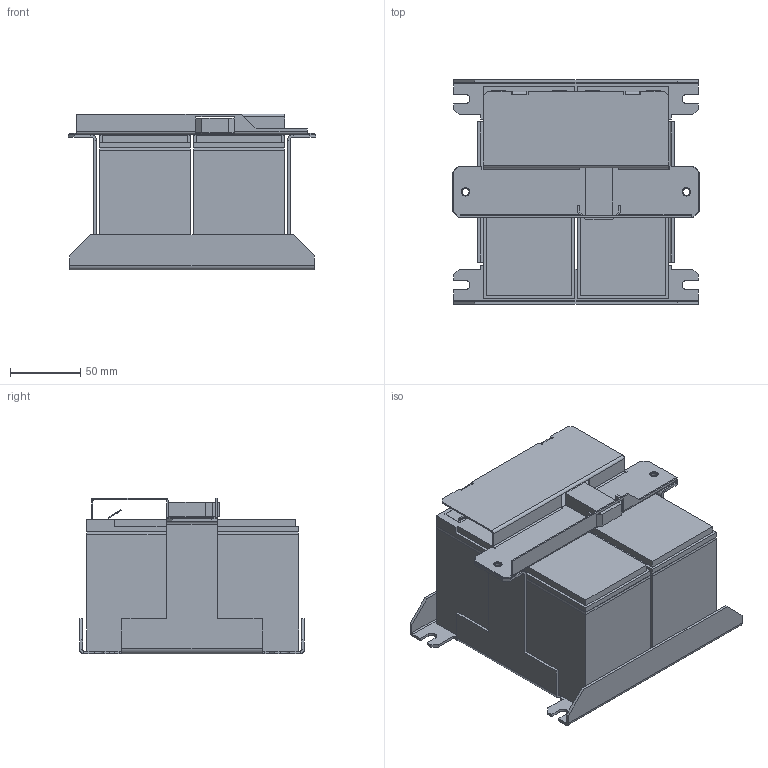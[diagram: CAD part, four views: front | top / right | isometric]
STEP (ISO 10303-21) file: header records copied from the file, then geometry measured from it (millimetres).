
FILE_DESCRIPTION(/* description */ ('NBBH 2407 Batteriemodul'),/* implementation_level */ '2;1');
FILE_NAME(/* name */ 'C:\VAULT_WORKSPACE\Designs\HU\L33G1\L33G1M01.stp',/* time_stamp */ '2022-07-19T07:00:17+02:00',/* author */ ('mhe'),/* organization */ (''),/* preprocessor_version */ 'ST-DEVELOPER v18.1',/* originating_system */ 'Autodesk Inventor 2021',/* authorisation */ '');
FILE_SCHEMA (('AUTOMOTIVE_DESIGN { 1 0 10303 214 3 1 1 }'));
Length unit declared in the file: millimetre
Products named in the file (5): L33G1M01; L33G1K05; L33G1K07; 42040.9; 12V / 7Ah
Assembly tree (5 placements, depth 2):
  L33G1M01
    L33G1K05
    L33G1K07
    42040.9
    12V / 7Ah  x2
Bounding box: 176 x 160 x 111 mm (x, y, z)
Volume: 1925616.2 mm3; surface area: 224764.5 mm2
Topology: 5 solids, 5 shells, 416 faces, 1060 edges, 668 vertices
Faces by surface type: plane 380, cylinder 36
Full cylindrical faces by diameter (mm): 5 x6, 6 x2
Entity records: 9857 total; most frequent: CARTESIAN_POINT 1687, ORIENTED_EDGE 1664, DIRECTION 1574, EDGE_CURVE 832, LINE 760, VECTOR 760, VERTEX_POINT 520, AXIS2_PLACEMENT_3D 407
